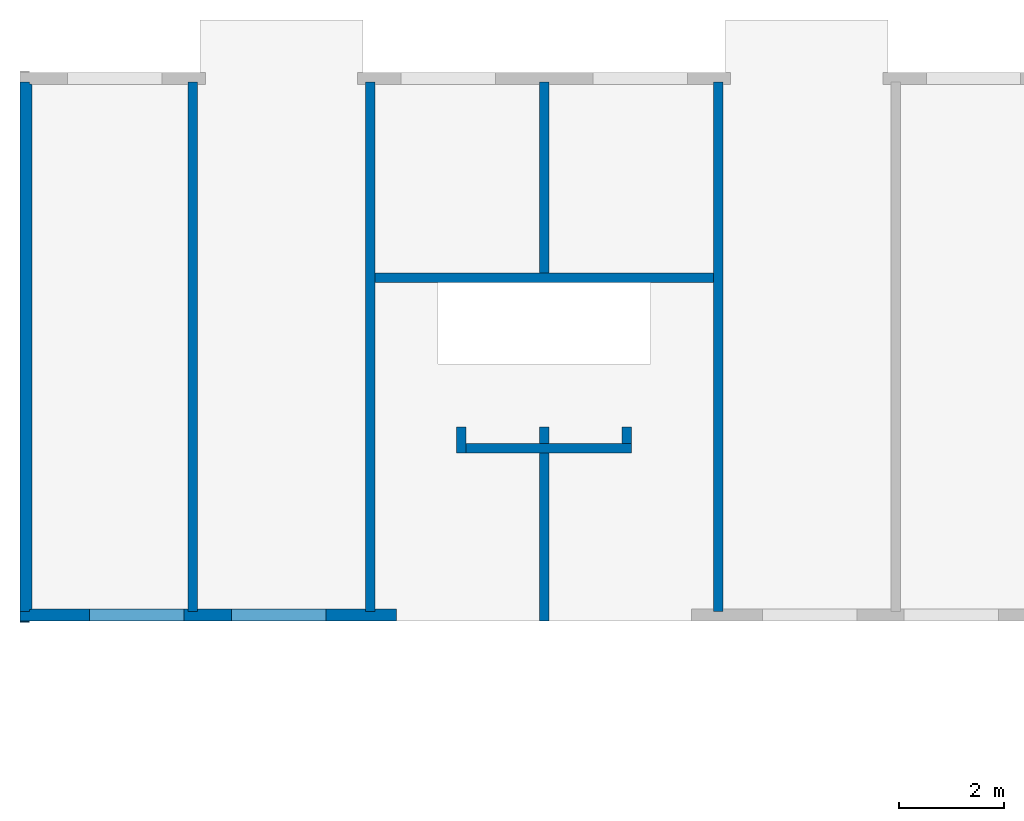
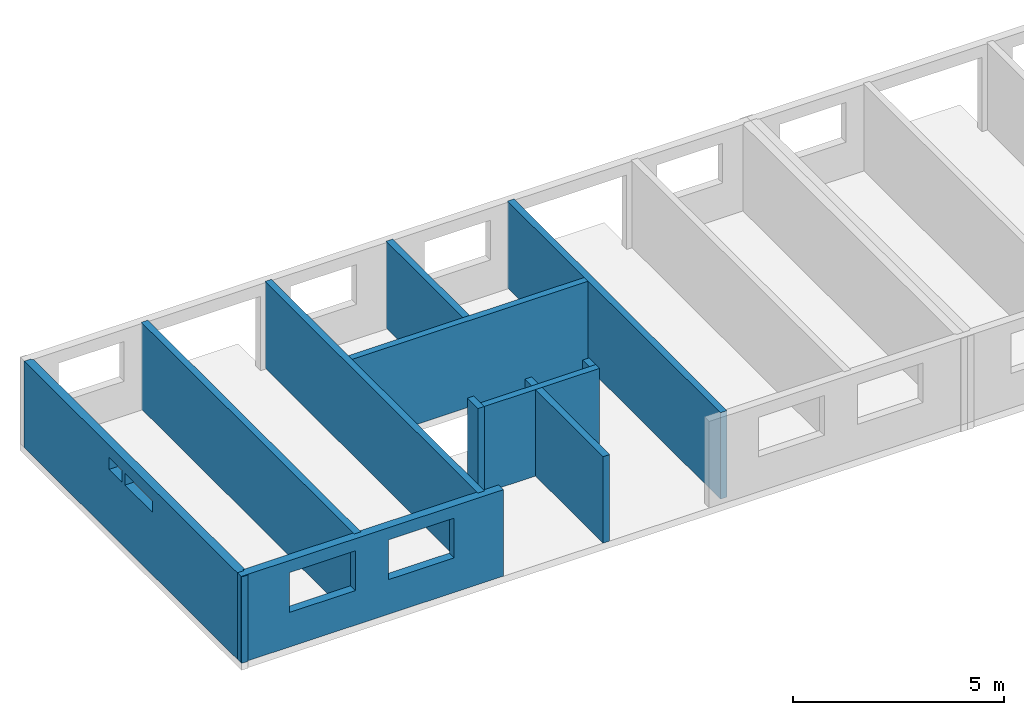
# One storey, part 2 of 9: 13 walls, 4 openings.
"""IFC2X3 building model written with IfcOpenShell, lengths in millimetres."""

from ifc_helpers import new_model, entity, si_unit, converted_unit, frame, frame_2d, origin, origin_with_axes, place, context, subcontext, project, spatial, polyline, rectangle, outline, extrude, material, layer, layer_set, layer_usage, element, save


model = new_model("IFC2X3")

# Units and contexts
model_context = context("Model", 3, precision=1e-05, world=origin())
plan_context = context("Plan", 3, precision=1e-05, world=origin())
body_context = subcontext(model_context, "Body", "Model", "MODEL_VIEW")
ifc_project = project(units=[si_unit("LENGTHUNIT", "METRE", prefix="MILLI"), converted_unit("PLANEANGLEUNIT", "DEGREE", entity("IfcPlaneAngleMeasure", 0.0174532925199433), si_unit("PLANEANGLEUNIT", "RADIAN"), dimensions=[0, 0, 0, 0, 0, 0, 0]), si_unit("AREAUNIT", "SQUARE_METRE"), si_unit("VOLUMEUNIT", "CUBIC_METRE")], contexts=[model_context, plan_context])

# Building, storey
building_placement = place(None, origin())
building = spatial("IfcBuilding", under=ifc_project, at=building_placement, Name="Bâtiment", CompositionType="ELEMENT")
storey_placement = place(building_placement, frame((0.0, 0.0, 5400.0), z_axis=(0.0, 0.0, 1.0), x_axis=(1.0, 0.0, 0.0)))
storey = spatial("IfcBuildingStorey", under=building, at=storey_placement, Name="r+2", CompositionType="ELEMENT", Elevation=5400.0)

# Walls
ifc_material_1 = material(Name="moellons")
ifc_layer_1 = layer(ifc_material_1, 20.0775509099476)
ifc_layer_set_1 = layer_set([ifc_layer_1])
ifc_layer_usage_1 = layer_usage(ifc_layer_set_1, "AXIS2", "POSITIVE", 0.0)
wall_1_placement = place(storey_placement, frame((-5.557612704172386e-12, 20.0775509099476, 0.0), z_axis=(0.0, 0.0, 1.0), x_axis=(1.0, -1.836970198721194e-16, 0.0)))
element("IfcWallStandardCase", 1, at=wall_1_placement, inside=storey, material=ifc_layer_usage_1, context=body_context, shape_type="SweptSolid", body=[
    extrude(rectangle(XDim=180.0, YDim=20.0775509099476, at=frame_2d((90.0, 10.0387754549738), x_axis=(1.0, 0.0))), frame((0.0, -20.0775509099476, 0.0), z_axis=(0.0, 0.0, 1.0), x_axis=(1.0, 0.0, 0.0)), (0.0, 0.0, 1.0), 2500.0),
])
ifc_material_2 = material(Name="moellons")
ifc_layer_2 = layer(ifc_material_2, 180.0)
ifc_layer_set_2 = layer_set([ifc_layer_2])
ifc_layer_usage_2 = layer_usage(ifc_layer_set_2, "AXIS2", "POSITIVE", 0.0)
wall_2_placement = place(storey_placement, frame((3380.0, 200.0775509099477, 0.0), z_axis=(0.0, 0.0, 1.0), x_axis=(4.506911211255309e-17, 1.0, 0.0)))
element("IfcWallStandardCase", 2, at=wall_2_placement, inside=storey, material=ifc_layer_usage_2, context=body_context, shape_type="SweptSolid", body=[
    extrude(rectangle(XDim=10090.00021457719, YDim=180.0, at=frame_2d((5045.000107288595, 90.0), x_axis=(1.0, 0.0))), origin_with_axes(), (0.0, 0.0, 1.0), 2500.0),
])
ifc_material_3 = material(Name="moellons")
ifc_layer_3 = layer(ifc_material_3, 180.0)
ifc_layer_set_3 = layer_set([ifc_layer_3])
ifc_layer_usage_3 = layer_usage(ifc_layer_set_3, "AXIS2", "POSITIVE", 0.0)
wall_3_placement = place(storey_placement, frame((6759.999999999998, 200.0775509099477, 0.0), z_axis=(0.0, 0.0, 1.0), x_axis=(0.0, 1.0, 0.0)))
element("IfcWallStandardCase", 3, at=wall_3_placement, inside=storey, material=ifc_layer_usage_3, context=body_context, shape_type="SweptSolid", body=[
    extrude(rectangle(XDim=10090.00021457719, YDim=180.0, at=frame_2d((5045.000107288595, 90.0), x_axis=(1.0, 0.0))), origin_with_axes(), (0.0, 0.0, 1.0), 2500.0),
])
ifc_material_4 = material(Name="moellons")
ifc_layer_4 = layer(ifc_material_4, 180.0)
ifc_layer_set_4 = layer_set([ifc_layer_4])
ifc_layer_usage_4 = layer_usage(ifc_layer_set_4, "AXIS2", "POSITIVE", 0.0)
wall_4_placement = place(storey_placement, frame((13389.99993810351, 200.0775509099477, 0.0), z_axis=(0.0, 0.0, 1.0), x_axis=(0.0, 1.0, 0.0)))
element("IfcWallStandardCase", 4, at=wall_4_placement, inside=storey, material=ifc_layer_usage_4, context=body_context, shape_type="SweptSolid", body=[
    extrude(rectangle(XDim=10090.00021457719, YDim=180.0, at=frame_2d((5045.000107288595, 90.0), x_axis=(1.0, 0.0))), origin_with_axes(), (0.0, 0.0, 1.0), 2500.0),
])
ifc_material_5 = material(Name="moellons")
ifc_layer_5 = layer(ifc_material_5, 180.0)
ifc_layer_set_5 = layer_set([ifc_layer_5])
ifc_layer_usage_5 = layer_usage(ifc_layer_set_5, "AXIS2", "POSITIVE", 0.0)
wall_5_placement = place(storey_placement, frame((10075.0, 20.03821782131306, 0.0), z_axis=(0.0, 0.0, 1.0), x_axis=(0.0, 1.0, 0.0)))
element("IfcWallStandardCase", 5, at=wall_5_placement, inside=storey, material=ifc_layer_usage_5, context=body_context, shape_type="SweptSolid", body=[
    extrude(outline(polyline([(0.0, 0.0), (3200.039547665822, 0.0), (3200.039547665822, 180.0), (0.0007169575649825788, 180.0), (0.0, 0.0)])), origin_with_axes(), (0.0, 0.0, 1.0), 2500.0),
])
ifc_material_6 = material(Name="moellons")
ifc_layer_6 = layer(ifc_material_6, 180.0)
ifc_layer_set_6 = layer_set([ifc_layer_6])
ifc_layer_usage_6 = layer_usage(ifc_layer_set_6, "AXIS2", "POSITIVE", 0.0)
wall_6_placement = place(storey_placement, frame((10075.0, 20.03821782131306, 0.0), z_axis=(0.0, 0.0, 1.0), x_axis=(0.0, 1.0, 0.0)))
element("IfcWallStandardCase", 6, at=wall_6_placement, inside=storey, material=ifc_layer_usage_6, context=body_context, shape_type="SweptSolid", body=[
    extrude(outline(polyline([(3380.039547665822, 0.0), (3700.039547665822, 0.0), (3700.039547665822, 180.0), (3380.039547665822, 180.0), (3380.039547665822, 0.0)])), origin_with_axes(), (0.0, 0.0, 1.0), 2500.0),
])
ifc_material_7 = material(Name="moellons")
ifc_layer_7 = layer(ifc_material_7, 180.0)
ifc_layer_set_7 = layer_set([ifc_layer_7])
ifc_layer_usage_7 = layer_usage(ifc_layer_set_7, "AXIS2", "POSITIVE", 0.0)
wall_7_placement = place(storey_placement, frame((10075.0, 6650.077765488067, 0.0), z_axis=(0.0, 0.0, 1.0), x_axis=(0.0, 1.0, 0.0)))
element("IfcWallStandardCase", 7, at=wall_7_placement, inside=storey, material=ifc_layer_usage_7, context=body_context, shape_type="SweptSolid", body=[
    extrude(rectangle(XDim=3639.999999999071, YDim=180.0, at=frame_2d((1819.999999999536, 90.0), x_axis=(1.0, 0.0))), origin_with_axes(), (0.0, 0.0, 1.0), 2500.0),
])
ifc_material_8 = material(Name="moellons")
ifc_layer_8 = layer(ifc_material_8, 180.0)
ifc_layer_set_8 = layer_set([ifc_layer_8])
ifc_layer_usage_8 = layer_usage(ifc_layer_set_8, "AXIS2", "POSITIVE", 0.0)
wall_8_placement = place(storey_placement, frame((13209.99947974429, 6650.077765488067, 0.0), z_axis=(0.0, 0.0, 1.0), x_axis=(-1.0, 0.0, 0.0)))
element("IfcWallStandardCase", 8, at=wall_8_placement, inside=storey, material=ifc_layer_usage_8, context=body_context, shape_type="SweptSolid", body=[
    extrude(rectangle(XDim=6449.999479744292, YDim=180.0, at=frame_2d((3224.999739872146, 90.0), x_axis=(1.0, 0.0))), origin_with_axes(), (0.0, 0.0, 1.0), 2500.0),
])
ifc_material_9 = material(Name="moellons")
ifc_layer_9 = layer(ifc_material_9, 180.0)
ifc_layer_set_9 = layer_set([ifc_layer_9])
ifc_layer_usage_9 = layer_usage(ifc_layer_set_9, "AXIS2", "POSITIVE", 0.0)
wall_9_placement = place(storey_placement, frame((8499.999453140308, 3220.077765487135, 0.0), z_axis=(0.0, 0.0, 1.0), x_axis=(0.0, 1.0, 0.0)))
element("IfcWallStandardCase", 9, at=wall_9_placement, inside=storey, material=ifc_layer_usage_9, context=body_context, shape_type="SweptSolid", body=[
    extrude(rectangle(XDim=500.0, YDim=180.0, at=frame_2d((250.0, 90.0), x_axis=(1.0, 0.0))), origin_with_axes(), (0.0, 0.0, 1.0), 2500.0),
])
ifc_material_10 = material(Name="moellons")
ifc_layer_10 = layer(ifc_material_10, 180.0)
ifc_layer_set_10 = layer_set([ifc_layer_10])
ifc_layer_usage_10 = layer_usage(ifc_layer_set_10, "AXIS2", "POSITIVE", 0.0)
wall_10_placement = place(storey_placement, frame((11649.99945314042, 3400.077765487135, 0.0), z_axis=(0.0, 0.0, 1.0), x_axis=(-1.0, 0.0, 0.0)))
element("IfcWallStandardCase", 10, at=wall_10_placement, inside=storey, material=ifc_layer_usage_10, context=body_context, shape_type="SweptSolid", body=[
    extrude(rectangle(XDim=3150.000000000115, YDim=180.0, at=frame_2d((1575.000000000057, 90.0), x_axis=(1.0, 0.0))), origin_with_axes(), (0.0, 0.0, 1.0), 2500.0),
])
ifc_material_11 = material(Name="moellons")
ifc_layer_11 = layer(ifc_material_11, 180.0)
ifc_layer_set_11 = layer_set([ifc_layer_11])
ifc_layer_usage_11 = layer_usage(ifc_layer_set_11, "AXIS2", "POSITIVE", 0.0)
wall_11_placement = place(storey_placement, frame((11469.99945314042, 3720.077765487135, 0.0), z_axis=(0.0, 0.0, 1.0), x_axis=(0.0, -1.0, 0.0)))
element("IfcWallStandardCase", 11, at=wall_11_placement, inside=storey, material=ifc_layer_usage_11, context=body_context, shape_type="SweptSolid", body=[
    extrude(rectangle(XDim=320.0, YDim=180.0, at=frame_2d((160.0, 90.0), x_axis=(1.0, 0.0))), origin_with_axes(), (0.0, 0.0, 1.0), 2500.0),
])

# Wall, openings
ifc_material_12 = material(Name="moellons")
ifc_layer_12 = layer(ifc_material_12, 180.0)
ifc_material_13 = material(Name="briquettes")
ifc_layer_13 = layer(ifc_material_13, 39.99999999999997)
ifc_material_14 = material(Name="enduit platre")
ifc_layer_14 = layer(ifc_material_14, 10.00000000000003)
ifc_layer_set_12 = layer_set([ifc_layer_12, ifc_layer_13, ifc_layer_14])
ifc_layer_usage_12 = layer_usage(ifc_layer_set_12, "AXIS2", "POSITIVE", 0.0)
wall_12_placement = place(storey_placement, frame((-3.671044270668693e-12, 10290.07776548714, 0.0), z_axis=(0.0, 0.0, 1.0), x_axis=(-1.836970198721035e-16, -1.0, 0.0)))
wall_12 = element("IfcWallStandardCase", 12, at=wall_12_placement, inside=storey, material=ifc_layer_usage_12, context=body_context, shape_type="SweptSolid", body=[
    extrude(outline(polyline([(0.0, 0.0), (10090.00021457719, 0.0), (10090.00021457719, 180.0000000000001), (10050.00021457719, 180.0000000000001), (10050.00021457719, 220.0), (10040.00021457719, 220.0), (10040.00021457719, 230.0), (49.99999999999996, 230.0), (49.99999999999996, 220.0), (39.99999999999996, 220.0), (39.99999999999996, 180.0), (-3.306546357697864e-14, 180.0), (0.0, 0.0)])), origin_with_axes(), (0.0, 0.0, 1.0), 2500.0),
])
opening_1_placement = place(wall_12_placement, frame((4020.000000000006, -7.068193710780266e-28, 1810.0), z_axis=(0.0, 1.0, 0.0), x_axis=(0.0, 0.0, 1.0)))
element("IfcOpeningElement", 13, at=opening_1_placement, cuts=wall_12, Name="Baie de fenêtre", ObjectType="Opening", context=body_context, shape_type="SweptSolid", body=[
    extrude(rectangle(XDim=340.0, YDim=600.0, at=frame_2d((170.0, 300.0), x_axis=(1.0, 0.0))), origin_with_axes(), (0.0, 0.0, 1.0), 230.0),
])
opening_2_placement = place(wall_12_placement, frame((4769.999999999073, 1.009741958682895e-28, 1810.0), z_axis=(0.0, 1.0, 0.0), x_axis=(0.0, 0.0, 1.0)))
element("IfcOpeningElement", 14, at=opening_2_placement, cuts=wall_12, Name="Baie de fenêtre", ObjectType="Opening", context=body_context, shape_type="SweptSolid", body=[
    extrude(rectangle(XDim=340.0, YDim=1300.0, at=frame_2d((170.0, 650.0), x_axis=(1.0, 0.0))), origin_with_axes(), (0.0, 0.0, 1.0), 230.0000000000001),
])

ifc_material_15 = material(Name="moellons")
ifc_layer_15 = layer(ifc_material_15, 180.0000000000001)
ifc_material_16 = material(Name="briquettes")
ifc_layer_16 = layer(ifc_material_16, 40.0)
ifc_material_17 = material(Name="enduit platre")
ifc_layer_17 = layer(ifc_material_17, 10.0)
ifc_layer_set_13 = layer_set([ifc_layer_15, ifc_layer_16, ifc_layer_17])
ifc_layer_usage_13 = layer_usage(ifc_layer_set_13, "AXIS2", "POSITIVE", 0.0)
wall_13_placement = place(storey_placement, frame((-5.557612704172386e-12, 20.0775509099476, 0.0), z_axis=(0.0, 0.0, 1.0), x_axis=(1.0, 0.0, 0.0)))
wall_13 = element("IfcWallStandardCase", 15, at=wall_13_placement, inside=storey, material=ifc_layer_usage_13, context=body_context, shape_type="SweptSolid", body=[
    extrude(outline(polyline([(6760.000000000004, 230.0000000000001), (6760.000000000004, 180.0000000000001), (6580.000000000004, 180.0000000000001), (6580.000000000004, 230.0000000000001), (3380.000000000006, 230.0000000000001), (3380.000000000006, 180.0000000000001), (3200.000000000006, 180.0000000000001), (3200.000000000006, 230.0000000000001), (220.0000000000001, 230.0000000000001), (220.0000000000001, 220.0000000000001), (180.0000000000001, 220.0000000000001), (180.0000000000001, 180.0000000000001), (3.306546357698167e-14, 180.0000000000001), (0.0, 0.0), (7175.000000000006, 0.0), (7175.000000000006, 230.0000000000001), (6760.000000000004, 230.0000000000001)])), origin_with_axes(), (0.0, 0.0, 1.0), 2500.0),
])
opening_3_placement = place(wall_13_placement, frame((4025.00000000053, 0.0, 1000.0), z_axis=(0.0, 1.0, 0.0), x_axis=(0.0, 0.0, 1.0)))
element("IfcOpeningElement", 16, at=opening_3_placement, cuts=wall_13, Name="Baie de fenêtre", ObjectType="Opening", context=body_context, shape_type="SweptSolid", body=[
    extrude(rectangle(XDim=1150.0, YDim=1800.0, at=frame_2d((575.0, 899.9999999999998), x_axis=(1.0, 0.0))), origin_with_axes(), (0.0, 0.0, 1.0), 230.0),
])
opening_4_placement = place(wall_13_placement, frame((1325.000000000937, 0.0, 1000.0), z_axis=(0.0, 1.0, 0.0), x_axis=(0.0, 0.0, 1.0)))
element("IfcOpeningElement", 17, at=opening_4_placement, cuts=wall_13, Name="Baie de fenêtre", ObjectType="Opening", context=body_context, shape_type="SweptSolid", body=[
    extrude(rectangle(XDim=1150.0, YDim=1800.0, at=frame_2d((575.0, 900.0), x_axis=(1.0, 0.0))), origin_with_axes(), (0.0, 0.0, 1.0), 230.0000000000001),
])

save(model, "model.ifc")
